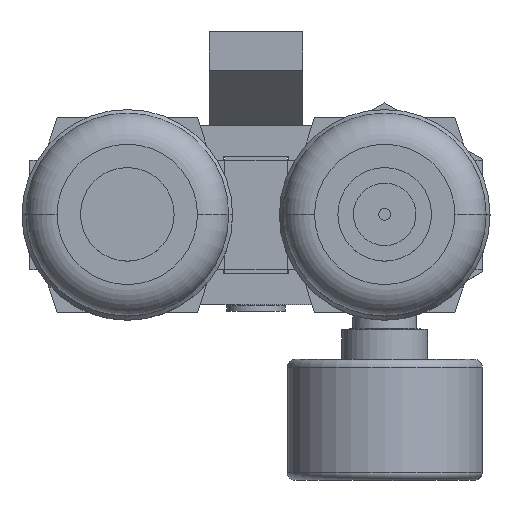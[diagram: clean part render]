
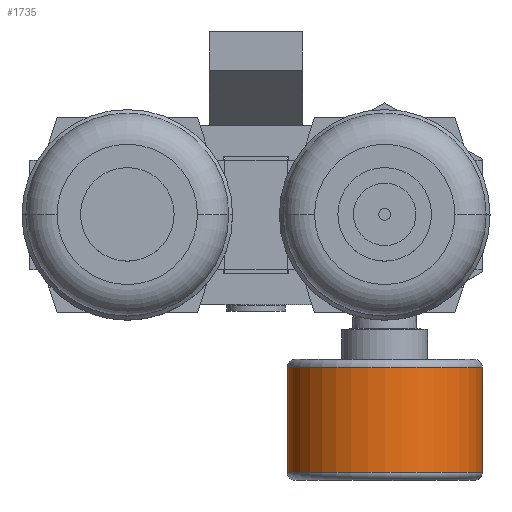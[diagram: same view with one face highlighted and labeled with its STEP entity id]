
A CAD part, top view. The second image highlights one B-rep face of the part: STEP entity #1735.
In plain terms, the highlighted cylindrical face has radius 12.5 mm (diameter 25 mm), a partial arc.
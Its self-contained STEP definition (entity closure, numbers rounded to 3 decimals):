
#885 = EDGE_CURVE ( 'NONE', #8012, #4042, #2049, .T. ) ;
#989 = EDGE_LOOP ( 'NONE', ( #1366, #8493, #8944, #2266 ) ) ;
#1230 = CARTESIAN_POINT ( 'NONE',  ( 12.5, 16., -11. ) ) ;
#1366 = ORIENTED_EDGE ( 'NONE', *, *, #1630, .F. ) ;
#1630 = EDGE_CURVE ( 'NONE', #8012, #4866, #8519, .T. ) ;
#1735 = ADVANCED_FACE ( 'NONE', ( #7430 ), #8916, .T. ) ;
#1874 = DIRECTION ( 'NONE',  ( 0., -1., 0. ) ) ;
#1978 = CARTESIAN_POINT ( 'NONE',  ( 0., -19.5, -11. ) ) ;
#2049 = LINE ( 'NONE', #8667, #5514 ) ;
#2266 = ORIENTED_EDGE ( 'NONE', *, *, #7755, .F. ) ;
#2341 = AXIS2_PLACEMENT_3D ( 'NONE', #6449, #3422, #9475 ) ;
#2455 = AXIS2_PLACEMENT_3D ( 'NONE', #9264, #2480, #4014 ) ;
#2480 = DIRECTION ( 'NONE',  ( 0., 1., 0. ) ) ;
#2770 = LINE ( 'NONE', #1230, #9103 ) ;
#2777 = DIRECTION ( 'NONE',  ( 1., 0., 0. ) ) ;
#3105 = CARTESIAN_POINT ( 'NONE',  ( -12.5, -19.5, -11. ) ) ;
#3422 = DIRECTION ( 'NONE',  ( 0., -1., 0. ) ) ;
#4014 = DIRECTION ( 'NONE',  ( 1., 0., 0. ) ) ;
#4042 = VERTEX_POINT ( 'NONE', #9413 ) ;
#4545 = CARTESIAN_POINT ( 'NONE',  ( 12.5, -33., -11. ) ) ;
#4866 = VERTEX_POINT ( 'NONE', #8536 ) ;
#5501 = VERTEX_POINT ( 'NONE', #4545 ) ;
#5514 = VECTOR ( 'NONE', #1874, 1000. ) ;
#6449 = CARTESIAN_POINT ( 'NONE',  ( 0., 16., -11. ) ) ;
#6881 = CIRCLE ( 'NONE', #2455, 12.5 ) ;
#6930 = AXIS2_PLACEMENT_3D ( 'NONE', #1978, #8725, #2777 ) ;
#7375 = DIRECTION ( 'NONE',  ( 0., -1., 0. ) ) ;
#7430 = FACE_OUTER_BOUND ( 'NONE', #989, .T. ) ;
#7697 = EDGE_CURVE ( 'NONE', #4042, #5501, #6881, .T. ) ;
#7755 = EDGE_CURVE ( 'NONE', #4866, #5501, #2770, .T. ) ;
#8012 = VERTEX_POINT ( 'NONE', #3105 ) ;
#8493 = ORIENTED_EDGE ( 'NONE', *, *, #885, .T. ) ;
#8519 = CIRCLE ( 'NONE', #6930, 12.5 ) ;
#8536 = CARTESIAN_POINT ( 'NONE',  ( 12.5, -19.5, -11. ) ) ;
#8667 = CARTESIAN_POINT ( 'NONE',  ( -12.5, 16., -11. ) ) ;
#8725 = DIRECTION ( 'NONE',  ( 0., 1., 0. ) ) ;
#8916 = CYLINDRICAL_SURFACE ( 'NONE', #2341, 12.5 ) ;
#8944 = ORIENTED_EDGE ( 'NONE', *, *, #7697, .T. ) ;
#9103 = VECTOR ( 'NONE', #7375, 1000. ) ;
#9264 = CARTESIAN_POINT ( 'NONE',  ( 0., -33., -11. ) ) ;
#9413 = CARTESIAN_POINT ( 'NONE',  ( -12.5, -33., -11. ) ) ;
#9475 = DIRECTION ( 'NONE',  ( 1., 0., 0. ) ) ;
